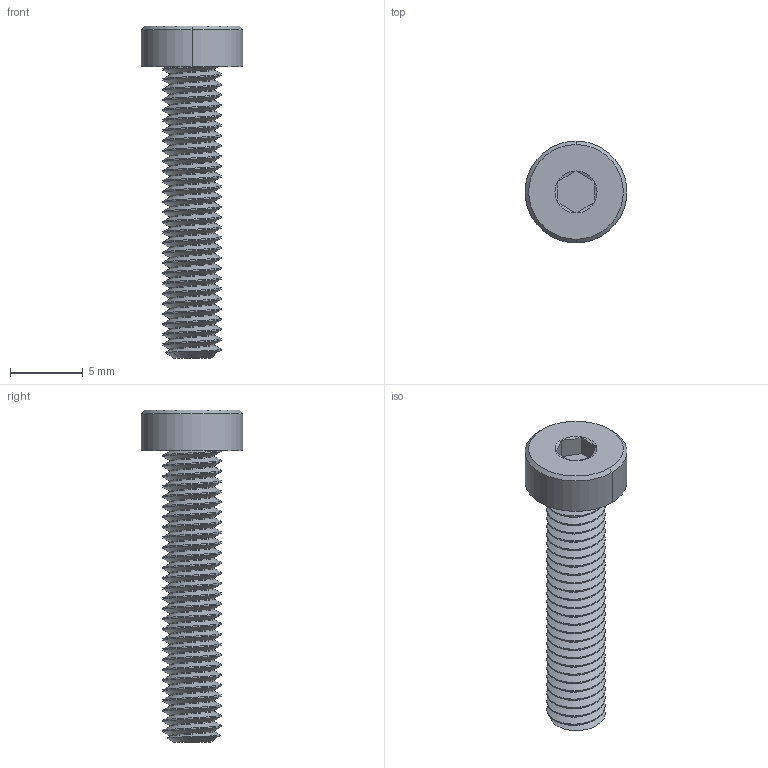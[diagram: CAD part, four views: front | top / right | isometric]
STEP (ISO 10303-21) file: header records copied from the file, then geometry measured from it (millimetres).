
FILE_DESCRIPTION (( 'STEP AP203' ), '1' );
FILE_NAME ('2804-0004-0020.STEP', '2017-04-05T21:31:09', ( '' ), ( '' ), 'SwSTEP 2.0', 'SolidWorks 2016', '' );
FILE_SCHEMA (( 'CONFIG_CONTROL_DESIGN' ));
Length unit declared in the file: inch
Products named in the file (1): 2804-0004-0020
Bounding box: 7 x 7 x 22.8 mm (x, y, z)
Volume: 297.6 mm3; surface area: 531.6 mm2
Topology: 1 solids, 1 shells, 139 faces, 390 edges, 255 vertices
Faces by surface type: cylinder 117, cone 10, plane 10, bspline 2
Entity records: 9888 total; most frequent: CARTESIAN_POINT 6928, ORIENTED_EDGE 780, DIRECTION 445, EDGE_CURVE 390, VERTEX_POINT 255, AXIS2_PLACEMENT_3D 157, EDGE_LOOP 141, ADVANCED_FACE 139
